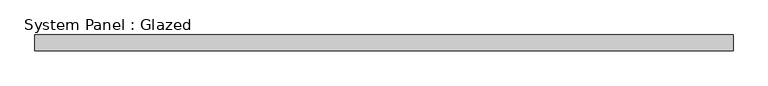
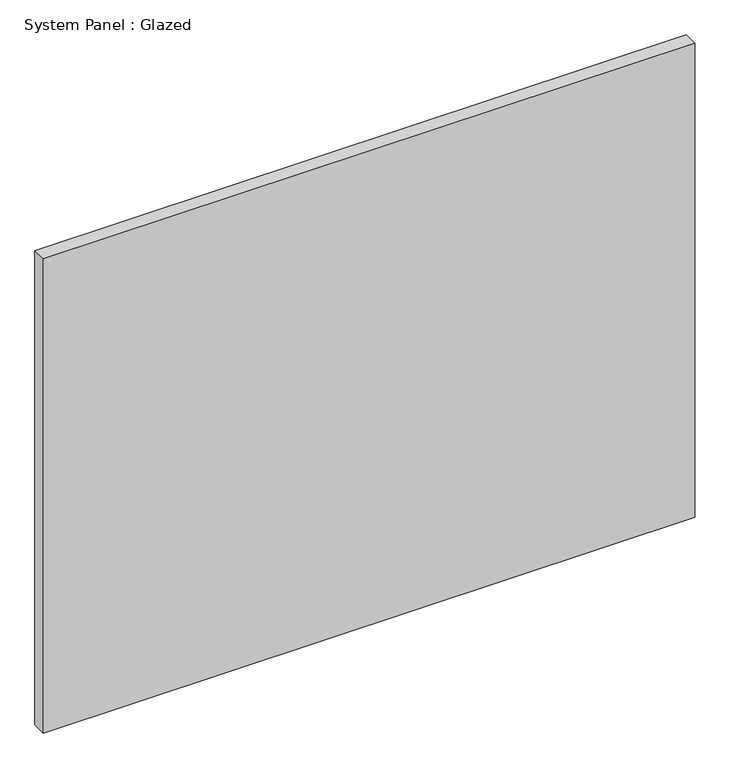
"""IFC4 building model written with IfcOpenShell, lengths in millimetres: plate geometry, System Panel : Glazed."""

from ifc_helpers import new_model, si_unit, origin, origin_with_axes, place, context, project, spatial, polyline, outline, extrude, source, transform, mapped, element, save


def system_panel_glazed_087d2106(model_context):
    return source(origin(), model_context, "Body", "SweptSolid", [
        extrude(outline(polyline([(565.15, 19.05), (-565.15, 19.05), (-565.15, 44.45), (565.15, 44.45), (565.15, 19.05)])), origin_with_axes(), (0.0, 0.0, 1.0), 869.95),
    ])


if __name__ == "__main__":
    model = new_model("IFC4")
    model_context = context("Model", 3, world=origin())
    ifc_project = project(units=[si_unit("LENGTHUNIT", "METRE", prefix="MILLI")], contexts=[model_context])
    site = spatial("IfcSite", under=ifc_project)
    building = spatial("IfcBuilding", under=site)
    placement = place(None, origin())
    system_panel_glazed_shape = system_panel_glazed_087d2106(model_context)
    element("IfcPlate", 1, ObjectType="System Panel : Glazed", at=placement, inside=building, context=model_context, shape_type="MappedRepresentation", body=[
        mapped(system_panel_glazed_shape, transform((0.0, 0.0, 0.0), x_axis=(1.0, 0.0, 0.0), y_axis=(0.0, 1.0, 0.0), z_axis=(0.0, 0.0, 1.0))),
    ])
    save(model, "model.ifc")
